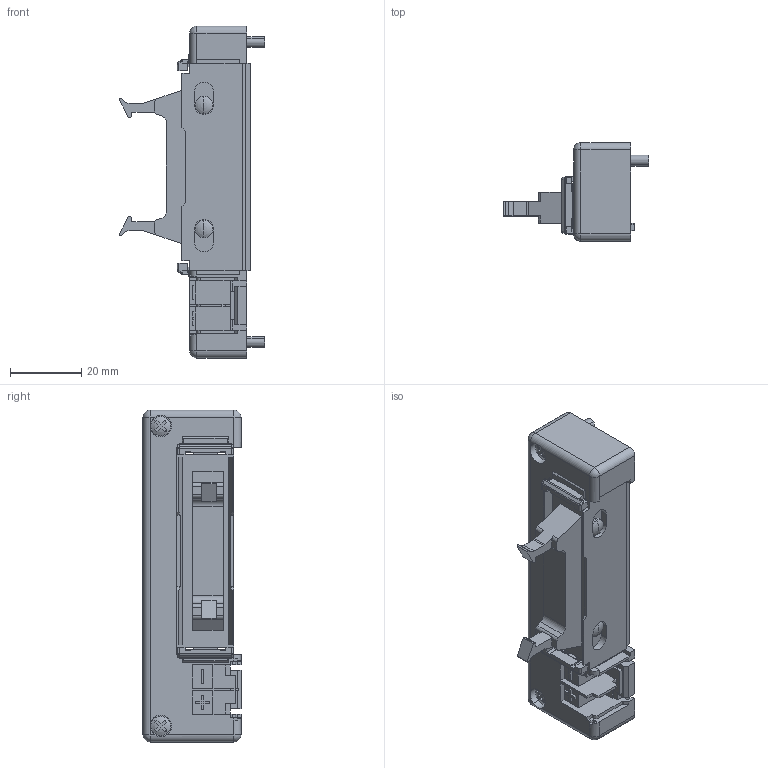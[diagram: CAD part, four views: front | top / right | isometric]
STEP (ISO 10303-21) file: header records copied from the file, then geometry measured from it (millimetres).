
FILE_DESCRIPTION( (''), '2;1');
FILE_NAME ('CVICAD32.25716.FZX-F20x-E_10645.stp','2020-09-09T09:20:05',(''),(''),'spGate 12.6.6','','');
FILE_SCHEMA (('AUTOMOTIVE_DESIGN'));
Length unit declared in the file: millimetre
Products named in the file (3): Assembly; CVICAD32-prt0; CVICAD32-prt1
Assembly tree (2 placements, depth 2):
  Assembly
    CVICAD32-prt0
    CVICAD32-prt1
Bounding box: 40.7 x 27.5 x 93 mm (x, y, z)
Volume: 34801.3 mm3; surface area: 14959.4 mm2
Topology: 2 solids, 2 shells, 415 faces, 1206 edges, 778 vertices
Faces by surface type: plane 306, cylinder 84, sphere 20, bspline 5
Entity records: 22900 total; most frequent: CARTESIAN_POINT 2603, ORIENTED_EDGE 2380, DIRECTION 2210, COLOUR_RGB 1607, PRESENTATION_STYLE_ASSIGNMENT 1607, STYLED_ITEM 1607, EDGE_CURVE 1190, DRAUGHTING_PRE_DEFINED_CURVE_FONT 1190
